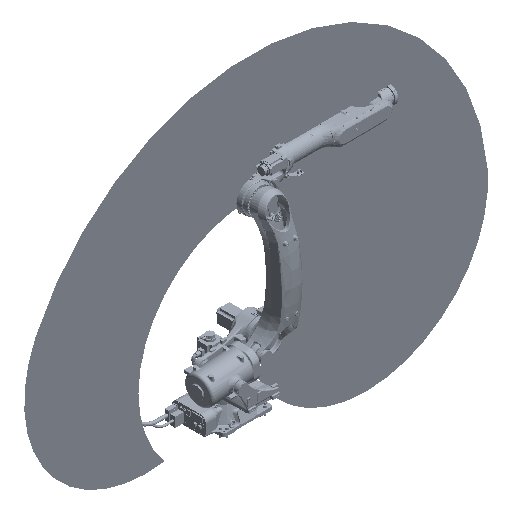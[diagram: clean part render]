
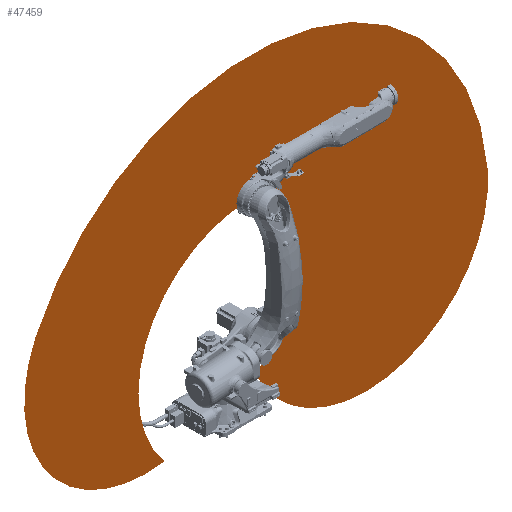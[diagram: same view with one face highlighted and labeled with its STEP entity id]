
A CAD part, isometric view. The second image highlights one B-rep face of the part: STEP entity #47459.
In plain terms, the highlighted planar face has unit normal (0, -1, 0).
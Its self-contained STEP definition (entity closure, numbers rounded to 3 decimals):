
#11573=LINE('',#374644,#18871);
#11574=LINE('',#374648,#18872);
#11575=LINE('',#374654,#18873);
#18871=VECTOR('',#183494,1.);
#18872=VECTOR('',#183497,1.);
#18873=VECTOR('',#183502,1.);
#28603=CIRCLE('',#148981,1476.482);
#28604=CIRCLE('',#148982,1359.467);
#28605=CIRCLE('',#148983,1476.482);
#28606=CIRCLE('',#148984,470.948);
#28607=CIRCLE('',#148985,470.948);
#28608=CIRCLE('',#148986,1476.482);
#28609=CIRCLE('',#148987,2873.001);
#31682=PLANE('',#148988);
#38880=FACE_OUTER_BOUND('',#61344,.T.);
#47459=ADVANCED_FACE('',(#38880),#31682,.T.);
#61344=EDGE_LOOP('',(#99476,#99477,#99478,#99479,#99480,#99481,#99482,#99483,
#99484,#99485));
#99476=ORIENTED_EDGE('',*,*,#130809,.T.);
#99477=ORIENTED_EDGE('',*,*,#130810,.T.);
#99478=ORIENTED_EDGE('',*,*,#130811,.T.);
#99479=ORIENTED_EDGE('',*,*,#130812,.T.);
#99480=ORIENTED_EDGE('',*,*,#130813,.T.);
#99481=ORIENTED_EDGE('',*,*,#130814,.T.);
#99482=ORIENTED_EDGE('',*,*,#130815,.T.);
#99483=ORIENTED_EDGE('',*,*,#130816,.T.);
#99484=ORIENTED_EDGE('',*,*,#130817,.T.);
#99485=ORIENTED_EDGE('',*,*,#130818,.T.);
#111731=VERTEX_POINT('',#374636);
#111732=VERTEX_POINT('',#374637);
#111733=VERTEX_POINT('',#374639);
#111734=VERTEX_POINT('',#374641);
#111735=VERTEX_POINT('',#374643);
#111736=VERTEX_POINT('',#374645);
#111737=VERTEX_POINT('',#374647);
#111738=VERTEX_POINT('',#374649);
#111739=VERTEX_POINT('',#374651);
#111740=VERTEX_POINT('',#374653);
#130809=EDGE_CURVE('',#111731,#111732,#28603,.T.);
#130810=EDGE_CURVE('',#111732,#111733,#28604,.T.);
#130811=EDGE_CURVE('',#111733,#111734,#28605,.T.);
#130812=EDGE_CURVE('',#111734,#111735,#28606,.T.);
#130813=EDGE_CURVE('',#111735,#111736,#11573,.T.);
#130814=EDGE_CURVE('',#111736,#111737,#28607,.T.);
#130815=EDGE_CURVE('',#111737,#111738,#11574,.T.);
#130816=EDGE_CURVE('',#111738,#111739,#28608,.T.);
#130817=EDGE_CURVE('',#111739,#111740,#28609,.T.);
#130818=EDGE_CURVE('',#111740,#111731,#11575,.T.);
#148981=AXIS2_PLACEMENT_3D('',#374635,#183486,#183487);
#148982=AXIS2_PLACEMENT_3D('',#374638,#183488,#183489);
#148983=AXIS2_PLACEMENT_3D('',#374640,#183490,#183491);
#148984=AXIS2_PLACEMENT_3D('',#374642,#183492,#183493);
#148985=AXIS2_PLACEMENT_3D('',#374646,#183495,#183496);
#148986=AXIS2_PLACEMENT_3D('',#374650,#183498,#183499);
#148987=AXIS2_PLACEMENT_3D('',#374652,#183500,#183501);
#148988=AXIS2_PLACEMENT_3D('',#374655,#183503,#183504);
#183486=DIRECTION('',(0.,-1.,0.));
#183487=DIRECTION('',(1.,0.,0.));
#183488=DIRECTION('',(0.,1.,0.));
#183489=DIRECTION('',(1.,0.,0.));
#183490=DIRECTION('',(0.,1.,0.));
#183491=DIRECTION('',(1.,0.,0.));
#183492=DIRECTION('',(0.,1.,0.));
#183493=DIRECTION('',(1.,0.,0.));
#183494=DIRECTION('',(0.174,0.,-0.985));
#183495=DIRECTION('',(0.,1.,0.));
#183496=DIRECTION('',(1.,0.,0.));
#183497=DIRECTION('',(-0.966,0.,-0.259));
#183498=DIRECTION('',(0.,-1.,0.));
#183499=DIRECTION('',(1.,0.,0.));
#183500=DIRECTION('',(0.,-1.,0.));
#183501=DIRECTION('',(1.,0.,0.));
#183502=DIRECTION('',(-0.833,0.,0.553));
#183503=DIRECTION('',(0.,-1.,0.));
#183504=DIRECTION('',(0.,0.,-1.));
#374635=CARTESIAN_POINT('',(-936.114,0.,1274.357));
#374636=CARTESIAN_POINT('',(-2274.261,0.,1898.345));
#374637=CARTESIAN_POINT('',(-716.114,0.,-185.643));
#374638=CARTESIAN_POINT('',(329.246,0.,683.478));
#374639=CARTESIAN_POINT('',(324.555,0.,2042.937));
#374640=CARTESIAN_POINT('',(-936.114,0.,1274.357));
#374641=CARTESIAN_POINT('',(531.078,0.,1108.985));
#374642=CARTESIAN_POINT('',(329.246,0.,683.478));
#374643=CARTESIAN_POINT('',(770.725,0.,847.457));
#374644=CARTESIAN_POINT('',(770.725,0.,847.457));
#374645=CARTESIAN_POINT('',(800.184,0.,680.383));
#374646=CARTESIAN_POINT('',(329.246,0.,683.478));
#374647=CARTESIAN_POINT('',(531.078,0.,257.972));
#374648=CARTESIAN_POINT('',(531.078,0.,257.972));
#374649=CARTESIAN_POINT('',(367.208,0.,214.063));
#374650=CARTESIAN_POINT('',(1720.52,0.,804.442));
#374651=CARTESIAN_POINT('',(3191.836,0.,927.841));
#374652=CARTESIAN_POINT('',(329.246,0.,683.478));
#374653=CARTESIAN_POINT('',(-2274.258,0.,1898.343));
#374654=CARTESIAN_POINT('',(-2274.258,0.,1898.343));
#374655=CARTESIAN_POINT('',(-936.114,0.,1274.357));
